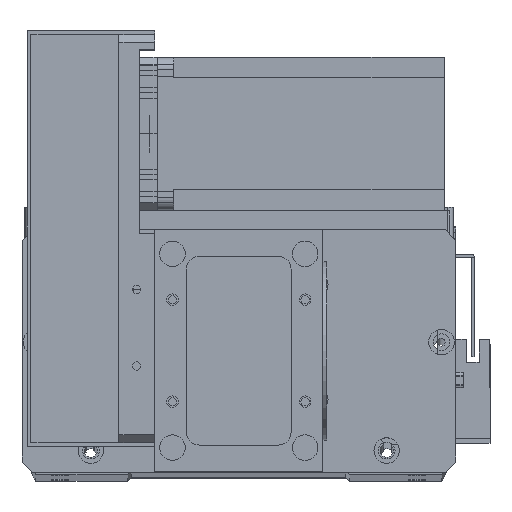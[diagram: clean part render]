
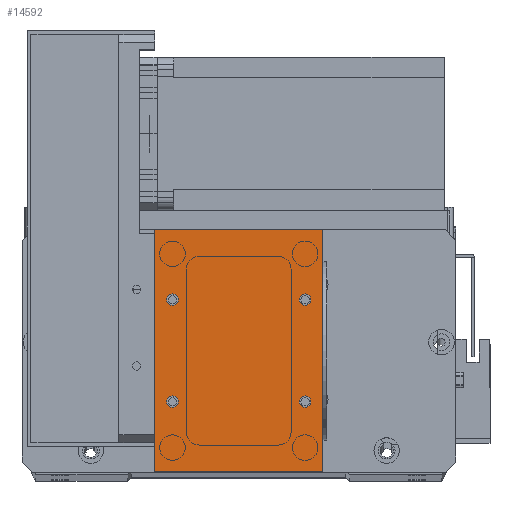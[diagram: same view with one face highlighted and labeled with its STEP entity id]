
A CAD part, top view. The second image highlights one B-rep face of the part: STEP entity #14592.
In plain terms, the highlighted planar face has unit normal (0, 0, 1).
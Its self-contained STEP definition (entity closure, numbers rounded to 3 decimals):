
#165 = VERTEX_POINT ( 'NONE', #20788 ) ;
#759 = CARTESIAN_POINT ( 'NONE',  ( 7., 67.5, 2. ) ) ;
#786 = LINE ( 'NONE', #2851, #27346 ) ;
#1185 = AXIS2_PLACEMENT_3D ( 'NONE', #8431, #25917, #10947 ) ;
#1216 = CARTESIAN_POINT ( 'NONE',  ( 9.25, 27.5, 2. ) ) ;
#1746 = DIRECTION ( 'NONE',  ( 1., 0., 0. ) ) ;
#1796 = LINE ( 'NONE', #12193, #27586 ) ;
#1864 = CARTESIAN_POINT ( 'NONE',  ( 66., 95., 2. ) ) ;
#2030 = CARTESIAN_POINT ( 'NONE',  ( 59., 67.5, 2. ) ) ;
#2484 = CARTESIAN_POINT ( 'NONE',  ( 9.25, 67.5, 2. ) ) ;
#2690 = EDGE_CURVE ( 'NONE', #20104, #24542, #2759, .T. ) ;
#2759 = CIRCLE ( 'NONE', #25444, 2.25 ) ;
#2851 = CARTESIAN_POINT ( 'NONE',  ( 0., 0., 2. ) ) ;
#2874 = DIRECTION ( 'NONE',  ( 0., 0., 1. ) ) ;
#2938 = EDGE_CURVE ( 'NONE', #165, #7964, #8978, .T. ) ;
#3235 = DIRECTION ( 'NONE',  ( 1., 0., 0. ) ) ;
#3471 = EDGE_CURVE ( 'NONE', #10924, #22755, #786, .T. ) ;
#3918 = DIRECTION ( 'NONE',  ( -1., 0., 0. ) ) ;
#4192 = AXIS2_PLACEMENT_3D ( 'NONE', #28199, #13219, #30713 ) ;
#4422 = CARTESIAN_POINT ( 'NONE',  ( 4.75, 67.5, 2. ) ) ;
#4507 = EDGE_LOOP ( 'NONE', ( #15604, #24773 ) ) ;
#4517 = DIRECTION ( 'NONE',  ( 1., 0., 0. ) ) ;
#4578 = CIRCLE ( 'NONE', #30963, 2.25 ) ;
#4650 = VERTEX_POINT ( 'NONE', #15571 ) ;
#5543 = EDGE_CURVE ( 'NONE', #10165, #4650, #4578, .T. ) ;
#5919 = EDGE_CURVE ( 'NONE', #22378, #25705, #26851, .T. ) ;
#6064 = VECTOR ( 'NONE', #13808, 1000. ) ;
#6219 = EDGE_LOOP ( 'NONE', ( #21047, #14251 ) ) ;
#6350 = EDGE_CURVE ( 'NONE', #4650, #10165, #28396, .T. ) ;
#6446 = EDGE_CURVE ( 'NONE', #9342, #10924, #27601, .T. ) ;
#6654 = AXIS2_PLACEMENT_3D ( 'NONE', #10951, #28455, #13483 ) ;
#7484 = CARTESIAN_POINT ( 'NONE',  ( 7., 27.5, 2. ) ) ;
#7964 = VERTEX_POINT ( 'NONE', #1216 ) ;
#8177 = PLANE ( 'NONE',  #4192 ) ;
#8431 = CARTESIAN_POINT ( 'NONE',  ( 59., 67.5, 2. ) ) ;
#8617 = EDGE_CURVE ( 'NONE', #25705, #22378, #10301, .T. ) ;
#8623 = FACE_BOUND ( 'NONE', #4507, .T. ) ;
#8978 = CIRCLE ( 'NONE', #18140, 2.25 ) ;
#9342 = VERTEX_POINT ( 'NONE', #30419 ) ;
#9993 = DIRECTION ( 'NONE',  ( 1., 0., 0. ) ) ;
#10108 = EDGE_LOOP ( 'NONE', ( #13784, #26272 ) ) ;
#10165 = VERTEX_POINT ( 'NONE', #26195 ) ;
#10301 = CIRCLE ( 'NONE', #16546, 2.25 ) ;
#10378 = ORIENTED_EDGE ( 'NONE', *, *, #28358, .F. ) ;
#10924 = VERTEX_POINT ( 'NONE', #14814 ) ;
#10947 = DIRECTION ( 'NONE',  ( 1., 0., 0. ) ) ;
#10951 = CARTESIAN_POINT ( 'NONE',  ( 59., 27.5, 2. ) ) ;
#11941 = VERTEX_POINT ( 'NONE', #1864 ) ;
#12193 = CARTESIAN_POINT ( 'NONE',  ( 66., 0., 2. ) ) ;
#13219 = DIRECTION ( 'NONE',  ( 0., 0., -1. ) ) ;
#13483 = DIRECTION ( 'NONE',  ( 1., 0., 0. ) ) ;
#13784 = ORIENTED_EDGE ( 'NONE', *, *, #20722, .F. ) ;
#13808 = DIRECTION ( 'NONE',  ( 0., -1., 0. ) ) ;
#14251 = ORIENTED_EDGE ( 'NONE', *, *, #6350, .F. ) ;
#14275 = DIRECTION ( 'NONE',  ( 0., 0., 1. ) ) ;
#14528 = FACE_OUTER_BOUND ( 'NONE', #31534, .T. ) ;
#14592 = ADVANCED_FACE ( 'NONE', ( #8623, #21943, #27803, #21167, #14528 ), #8177, .F. ) ;
#14751 = DIRECTION ( 'NONE',  ( 0., 1., 0. ) ) ;
#14814 = CARTESIAN_POINT ( 'NONE',  ( 0., 0., 2. ) ) ;
#15571 = CARTESIAN_POINT ( 'NONE',  ( 56.75, 27.5, 2. ) ) ;
#15604 = ORIENTED_EDGE ( 'NONE', *, *, #8617, .F. ) ;
#16546 = AXIS2_PLACEMENT_3D ( 'NONE', #29229, #14275, #31759 ) ;
#16606 = EDGE_CURVE ( 'NONE', #11941, #9342, #18702, .T. ) ;
#16679 = CIRCLE ( 'NONE', #29650, 2.25 ) ;
#16738 = DIRECTION ( 'NONE',  ( 0., 0., 1. ) ) ;
#17114 = ORIENTED_EDGE ( 'NONE', *, *, #6446, .T. ) ;
#17752 = EDGE_LOOP ( 'NONE', ( #10378, #21195 ) ) ;
#17859 = DIRECTION ( 'NONE',  ( 1., 0., 0. ) ) ;
#17884 = CARTESIAN_POINT ( 'NONE',  ( 7., 27.5, 2. ) ) ;
#17988 = EDGE_CURVE ( 'NONE', #22755, #11941, #1796, .T. ) ;
#18010 = AXIS2_PLACEMENT_3D ( 'NONE', #759, #18223, #3235 ) ;
#18140 = AXIS2_PLACEMENT_3D ( 'NONE', #17884, #2874, #20389 ) ;
#18223 = DIRECTION ( 'NONE',  ( 0., 0., 1. ) ) ;
#18316 = CARTESIAN_POINT ( 'NONE',  ( 66., 0., 2. ) ) ;
#18702 = LINE ( 'NONE', #21534, #25316 ) ;
#19529 = DIRECTION ( 'NONE',  ( 0., 0., 1. ) ) ;
#20104 = VERTEX_POINT ( 'NONE', #27624 ) ;
#20389 = DIRECTION ( 'NONE',  ( 1., 0., 0. ) ) ;
#20722 = EDGE_CURVE ( 'NONE', #7964, #165, #16679, .T. ) ;
#20788 = CARTESIAN_POINT ( 'NONE',  ( 4.75, 27.5, 2. ) ) ;
#21047 = ORIENTED_EDGE ( 'NONE', *, *, #5543, .F. ) ;
#21167 = FACE_BOUND ( 'NONE', #10108, .T. ) ;
#21195 = ORIENTED_EDGE ( 'NONE', *, *, #2690, .F. ) ;
#21242 = CARTESIAN_POINT ( 'NONE',  ( 0., 0., 2. ) ) ;
#21534 = CARTESIAN_POINT ( 'NONE',  ( 0., 95., 2. ) ) ;
#21943 = FACE_BOUND ( 'NONE', #17752, .T. ) ;
#22378 = VERTEX_POINT ( 'NONE', #4422 ) ;
#22755 = VERTEX_POINT ( 'NONE', #18316 ) ;
#24542 = VERTEX_POINT ( 'NONE', #32034 ) ;
#24773 = ORIENTED_EDGE ( 'NONE', *, *, #5919, .F. ) ;
#24959 = DIRECTION ( 'NONE',  ( 0., 0., 1. ) ) ;
#25316 = VECTOR ( 'NONE', #3918, 1000. ) ;
#25444 = AXIS2_PLACEMENT_3D ( 'NONE', #2030, #19529, #4517 ) ;
#25600 = CIRCLE ( 'NONE', #1185, 2.25 ) ;
#25705 = VERTEX_POINT ( 'NONE', #2484 ) ;
#25917 = DIRECTION ( 'NONE',  ( 0., 0., 1. ) ) ;
#26195 = CARTESIAN_POINT ( 'NONE',  ( 61.25, 27.5, 2. ) ) ;
#26272 = ORIENTED_EDGE ( 'NONE', *, *, #2938, .F. ) ;
#26730 = ORIENTED_EDGE ( 'NONE', *, *, #17988, .T. ) ;
#26851 = CIRCLE ( 'NONE', #18010, 2.25 ) ;
#27346 = VECTOR ( 'NONE', #17859, 1000. ) ;
#27586 = VECTOR ( 'NONE', #14751, 1000. ) ;
#27601 = LINE ( 'NONE', #21242, #6064 ) ;
#27624 = CARTESIAN_POINT ( 'NONE',  ( 56.75, 67.5, 2. ) ) ;
#27803 = FACE_BOUND ( 'NONE', #6219, .T. ) ;
#28199 = CARTESIAN_POINT ( 'NONE',  ( 0., 0., 2. ) ) ;
#28358 = EDGE_CURVE ( 'NONE', #24542, #20104, #25600, .T. ) ;
#28396 = CIRCLE ( 'NONE', #6654, 2.25 ) ;
#28455 = DIRECTION ( 'NONE',  ( 0., 0., 1. ) ) ;
#28516 = ORIENTED_EDGE ( 'NONE', *, *, #16606, .T. ) ;
#29229 = CARTESIAN_POINT ( 'NONE',  ( 7., 67.5, 2. ) ) ;
#29650 = AXIS2_PLACEMENT_3D ( 'NONE', #7484, #24959, #9993 ) ;
#30418 = ORIENTED_EDGE ( 'NONE', *, *, #3471, .T. ) ;
#30419 = CARTESIAN_POINT ( 'NONE',  ( 0., 95., 2. ) ) ;
#30713 = DIRECTION ( 'NONE',  ( -1., 0., 0. ) ) ;
#30963 = AXIS2_PLACEMENT_3D ( 'NONE', #31681, #16738, #1746 ) ;
#31534 = EDGE_LOOP ( 'NONE', ( #17114, #30418, #26730, #28516 ) ) ;
#31681 = CARTESIAN_POINT ( 'NONE',  ( 59., 27.5, 2. ) ) ;
#31759 = DIRECTION ( 'NONE',  ( 1., 0., 0. ) ) ;
#32034 = CARTESIAN_POINT ( 'NONE',  ( 61.25, 67.5, 2. ) ) ;
